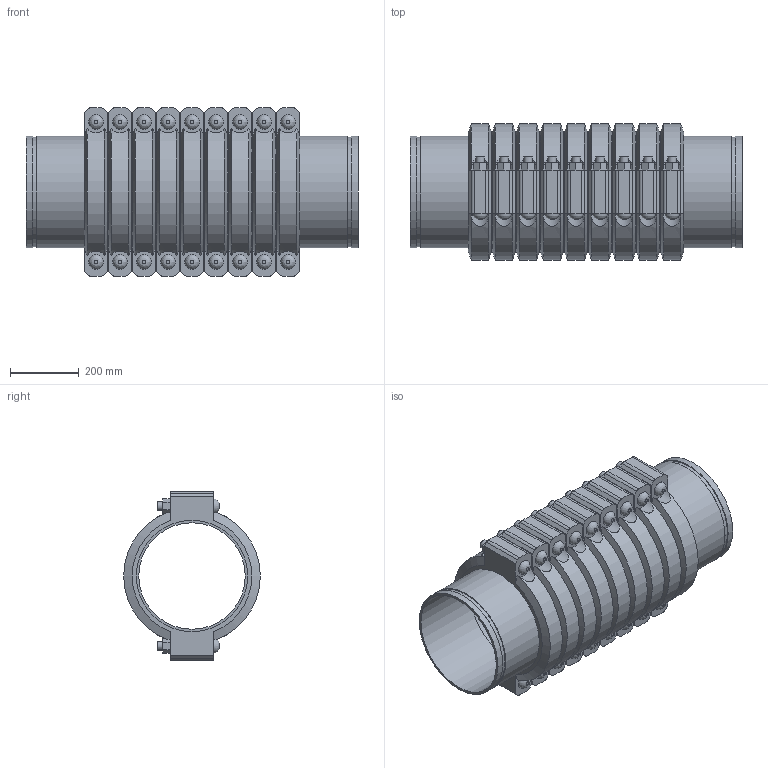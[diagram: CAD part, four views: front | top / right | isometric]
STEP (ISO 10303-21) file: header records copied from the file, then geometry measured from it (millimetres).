
FILE_DESCRIPTION(/* description */ ('VIC SS EXPANSION JOINT 9 COUPLINGS COMPRESSED STYLE 155P (OGS) (POTABLE WATER) ','CAx-IF Rec.Pracs.---Representation and Presentation of Product Manufacturing Information (PMI)---4.0---2014-10-13'),/* implementation_level */ '2;1');
FILE_NAME(/* name */ 'C:\Users\kkamble\AppData\Roaming\Autodesk\ApplicationPlugins\Victaulic.Temp\A693\Victaulic_SS_Expansion Joint_Compressed_9 Couplings_Style 155P (OGS)-Potable Water_9 Coup_Comp_12 (300).stp',/* time_stamp */ '2021-07-16T17:18:58+06:00',/* author */ ('kkamble'),/* organization */ ('Victaulic'),/* preprocessor_version */ 'ST-DEVELOPER v17.2',/* originating_system */ 'Autodesk Inventor 2019',/* authorisation */ '');
FILE_SCHEMA (('AP242_MANAGED_MODEL_BASED_3D_ENGINEERING_MIM_LF { 1 0 10303 442 1 1 4 }'));
Length unit declared in the file: inch
Products named in the file (4): 155P-12.0; Nipple-12.0; Nipple-12.0_1; 077-12.0
Assembly tree (19 placements, depth 2):
  155P-12.0
    Nipple-12.0  x2
    Nipple-12.0_1  x8
    077-12.0  x9
Bounding box: 965.2 x 397 x 488.95 mm (x, y, z)
Volume: 36676447.2 mm3; surface area: 4970690.2 mm2
Topology: 19 solids, 37 shells, 633 faces, 1551 edges, 1086 vertices
Faces by surface type: plane 366, cylinder 213, cone 36, bspline 18
Full cylindrical faces by diameter (mm): 25.4 x36, 27.432 x18, 309.677 x10, 318.287 x20, 323.85 x39
Entity records: 3009 total; most frequent: CARTESIAN_POINT 653, DIRECTION 475, ORIENTED_EDGE 398, EDGE_CURVE 199, AXIS2_PLACEMENT_3D 194, VERTEX_POINT 142, EDGE_LOOP 105, CIRCLE 92
